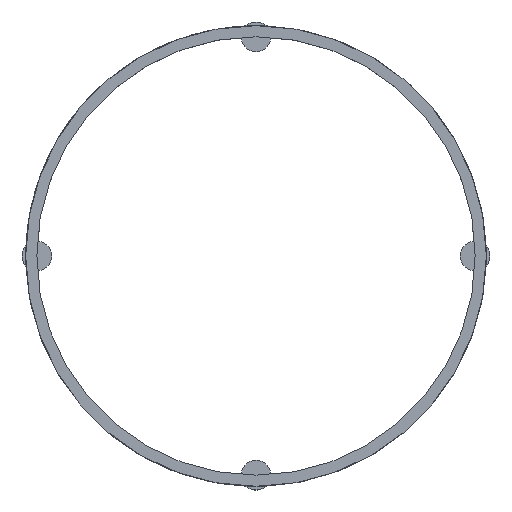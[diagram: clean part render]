
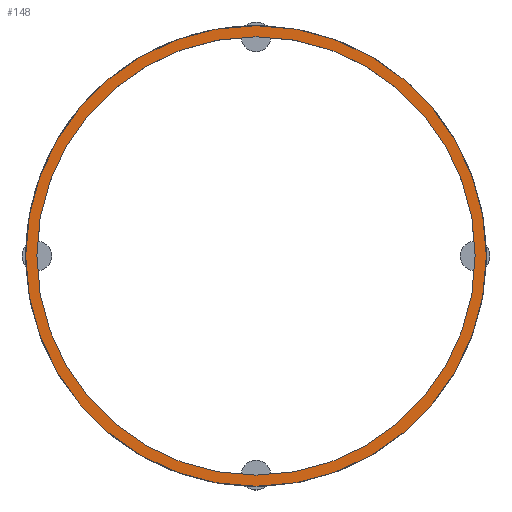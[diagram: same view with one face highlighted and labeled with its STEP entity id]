
A CAD part, top view. The second image highlights one B-rep face of the part: STEP entity #148.
In plain terms, the highlighted planar face has unit normal (0, 0, 1).
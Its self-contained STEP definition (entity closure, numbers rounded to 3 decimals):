
#103=PLANE('',#738);
#127=FACE_BOUND('',#245,.T.);
#128=FACE_BOUND('',#246,.T.);
#148=ADVANCED_FACE('',(#127,#128),#103,.T.);
#245=EDGE_LOOP('',(#375));
#246=EDGE_LOOP('',(#376));
#375=ORIENTED_EDGE('',*,*,#534,.F.);
#376=ORIENTED_EDGE('',*,*,#587,.T.);
#482=VERTEX_POINT('',#1040);
#527=VERTEX_POINT('',#1150);
#534=EDGE_CURVE('',#482,#482,#616,.T.);
#587=EDGE_CURVE('',#527,#527,#655,.T.);
#616=CIRCLE('',#686,29.5);
#655=CIRCLE('',#737,31.);
#686=AXIS2_PLACEMENT_3D('',#1039,#803,#804);
#737=AXIS2_PLACEMENT_3D('',#1149,#919,#920);
#738=AXIS2_PLACEMENT_3D('',#1151,#921,#922);
#803=DIRECTION('',(0.,0.,1.));
#804=DIRECTION('',(1.,0.,0.));
#919=DIRECTION('',(0.,0.,1.));
#920=DIRECTION('',(1.,0.,0.));
#921=DIRECTION('',(0.,0.,1.));
#922=DIRECTION('',(1.,0.,0.));
#1039=CARTESIAN_POINT('',(0.,0.,6.));
#1040=CARTESIAN_POINT('',(29.5,0.,6.));
#1149=CARTESIAN_POINT('',(0.,0.,6.));
#1150=CARTESIAN_POINT('',(31.,0.,6.));
#1151=CARTESIAN_POINT('',(0.,0.,6.));
